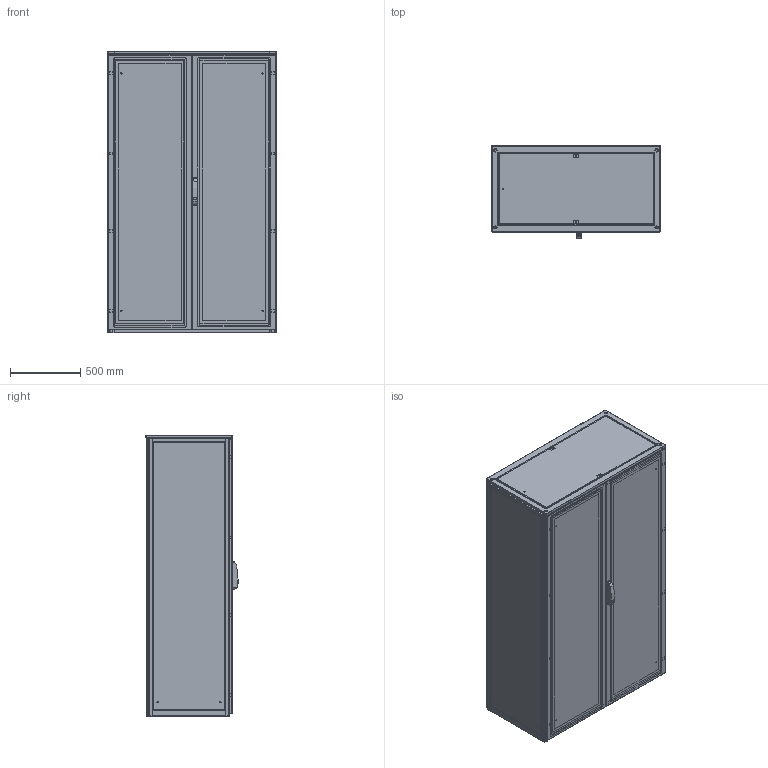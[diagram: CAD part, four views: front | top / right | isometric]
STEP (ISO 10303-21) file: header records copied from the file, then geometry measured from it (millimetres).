
FILE_DESCRIPTION(/* description */ ('STEP AP214'),/* implementation_level */ '2;1');
FILE_NAME(/* name */ 'ENUX122006PR -LOD350',/* time_stamp */ '2025-10-06T09:38:36+02:00',/* author */ ('License CC BY-ND 4.0'),/* organization */ ('CADENAS'),/* preprocessor_version */ 'ST-DEVELOPER v19.3',/* originating_system */ 'PARTsolutions',/* authorisation */ ' ');
FILE_SCHEMA (('AUTOMOTIVE_DESIGN {1 0 10303 214 3 1 1}'));
Length unit declared in the file: millimetre
Products named in the file (11): ENUX122006PR  -LOD350; ENUX122006PR  -LOD3501; ENUX122006PR  -LOD3507; ENUX122006PR  -LOD3502; ENUX122006PR  -LOD35011; ENUX122006PR  -LOD3503; ENUX122006PR  -LOD3508; ENUX122006PR  -LOD3505; ENUX122006PR  -LOD3504; ENUX122006PR  -LOD35010; ENUX122006PR  -LOD3509
Assembly tree (19 placements, depth 2):
  ENUX122006PR  -LOD350
    ENUX122006PR  -LOD3501
    ENUX122006PR  -LOD3507  x2
    ENUX122006PR  -LOD3502
    ENUX122006PR  -LOD35011
    ENUX122006PR  -LOD3503
    ENUX122006PR  -LOD3508
    ENUX122006PR  -LOD3505
    ENUX122006PR  -LOD3504
    ENUX122006PR  -LOD35010  x4
    ENUX122006PR  -LOD3509  x6
Bounding box: 1212 x 657 x 2008.5 mm (x, y, z)
Volume: 30479239.9 mm3; surface area: 25360396.1 mm2
Topology: 19 solids, 26 shells, 1608 faces, 4345 edges, 2844 vertices
Faces by surface type: plane 974, cylinder 584, torus 30, cone 12, sphere 8
Full cylindrical faces by diameter (mm): 6 x15, 9 x13, 12 x4, 14 x2, 17 x2, 28 x2
Entity records: 36598 total; most frequent: CARTESIAN_POINT 6697, DIRECTION 6215, ORIENTED_EDGE 6118, EDGE_CURVE 3059, AXIS2_PLACEMENT_3D 2073, LINE 2069, VECTOR 2069, VERTEX_POINT 2022
